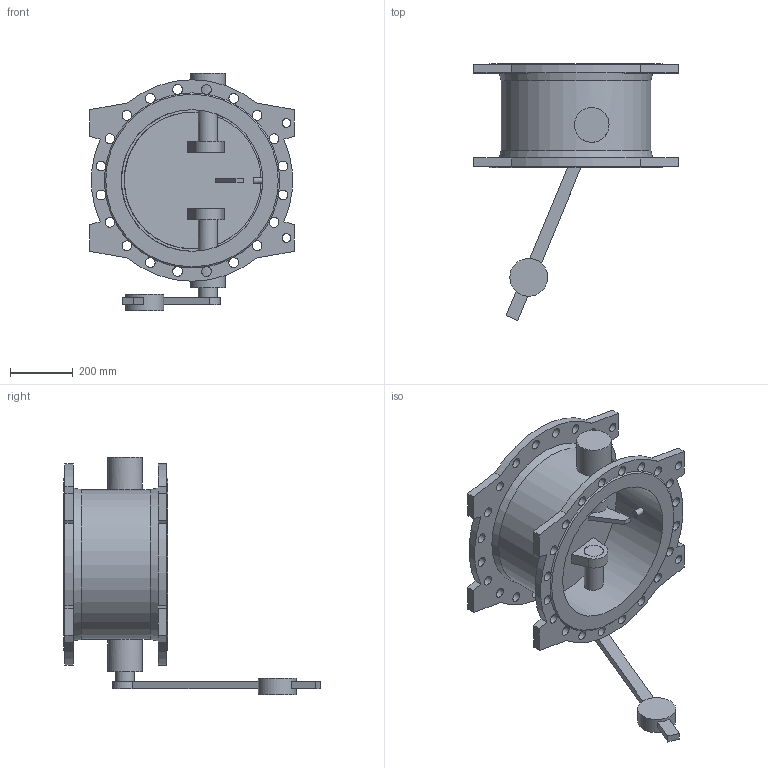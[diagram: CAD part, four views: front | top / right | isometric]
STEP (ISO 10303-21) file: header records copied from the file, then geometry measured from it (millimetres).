
FILE_DESCRIPTION(('STEP AP203'), '1');
FILE_NAME('Êëàïàí 015F.PV DN450 PN16 ñ ïðîòèâîâåñîì', '', ('UNSPECIFIED'), ('UNSPECIFIED'), 'ASCON STEP Converter 1.6', 'ASCON Math Kernel', '');
FILE_SCHEMA(('CONFIG_CONTROL_DESIGN'));
Length unit declared in the file: millimetre
Bounding box: 650 x 815 x 753 mm (x, y, z)
Volume: 21109220.7 mm3; surface area: 2400803.1 mm2
Topology: 1 solids, 1 shells, 136 faces, 468 edges, 311 vertices
Faces by surface type: cylinder 66, plane 63, cone 4, extrusion 2, bspline 1
Full cylindrical faces by diameter (mm): 20 x1, 28 x4, 31 x40, 60 x3, 62 x2, 110 x2, 120 x1, 450 x1, 476 x1
Entity records: 9419 total; most frequent: CARTESIAN_POINT 4224, DIRECTION 834, ORIENTED_EDGE 808, EDGE_CURVE 404, AXIS2_PLACEMENT_3D 351, VERTEX_POINT 310, EDGE_LOOP 270, CIRCLE 217
